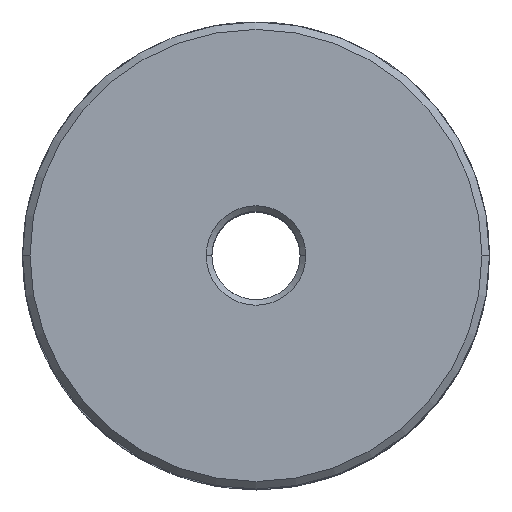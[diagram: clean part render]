
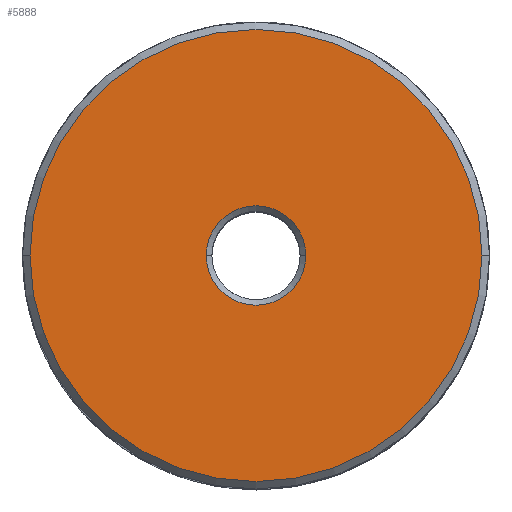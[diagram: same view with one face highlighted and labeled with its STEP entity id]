
A CAD part, top view. The second image highlights one B-rep face of the part: STEP entity #5888.
In plain terms, the highlighted planar face has unit normal (0, 0, 1).
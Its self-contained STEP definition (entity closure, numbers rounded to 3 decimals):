
#1599=CARTESIAN_POINT('',(-9.132,4.914,11.005));
#1600=DIRECTION('',(0.,0.,1.));
#1601=DIRECTION('',(-1.,0.,0.));
#1602=AXIS2_PLACEMENT_3D('',#1599,#1600,#1601);
#1621=CARTESIAN_POINT('',(-9.132,4.914,11.005));
#1622=DIRECTION('',(0.,0.,-1.));
#1623=DIRECTION('',(-1.,0.,0.));
#1624=AXIS2_PLACEMENT_3D('',#1621,#1622,#1623);
#1629=CARTESIAN_POINT('',(-9.132,4.914,11.005));
#1630=DIRECTION('',(0.,0.,-1.));
#1631=DIRECTION('',(1.,0.,0.));
#1632=AXIS2_PLACEMENT_3D('',#1629,#1630,#1631);
#1637=CARTESIAN_POINT('',(-9.132,4.914,11.005));
#1638=DIRECTION('',(0.,0.,1.));
#1639=DIRECTION('',(1.,0.,0.));
#1640=AXIS2_PLACEMENT_3D('',#1637,#1638,#1639);
#3023=CARTESIAN_POINT('',(6.235,4.914,11.005));
#3024=CARTESIAN_POINT('',(-24.499,4.914,11.005));
#3025=VERTEX_POINT('',#3023);
#3026=VERTEX_POINT('',#3024);
#3027=CARTESIAN_POINT('',(-12.513,4.914,11.005));
#3028=CARTESIAN_POINT('',(-5.751,4.914,11.005));
#3029=VERTEX_POINT('',#3027);
#3030=VERTEX_POINT('',#3028);
#5872=CARTESIAN_POINT('',(-9.132,4.914,11.005));
#5873=DIRECTION('',(0.,0.,1.));
#5874=DIRECTION('',(1.,0.,0.));
#5875=AXIS2_PLACEMENT_3D('',#5872,#5873,#5874);
#5876=PLANE('',#5875);
#5878=ORIENTED_EDGE('',*,*,#5877,.F.);
#5879=ORIENTED_EDGE('',*,*,#5862,.F.);
#5880=EDGE_LOOP('',(#5878,#5879));
#5881=FACE_OUTER_BOUND('',#5880,.F.);
#5883=ORIENTED_EDGE('',*,*,#5882,.F.);
#5885=ORIENTED_EDGE('',*,*,#5884,.F.);
#5886=EDGE_LOOP('',(#5883,#5885));
#5887=FACE_BOUND('',#5886,.F.);
#1603=CIRCLE('',#1602,15.367);
#1625=CIRCLE('',#1624,3.381);
#1633=CIRCLE('',#1632,3.381);
#1641=CIRCLE('',#1640,15.367);
#5862=EDGE_CURVE('',#3026,#3025,#1603,.T.);
#5877=EDGE_CURVE('',#3025,#3026,#1641,.T.);
#5882=EDGE_CURVE('',#3029,#3030,#1625,.T.);
#5884=EDGE_CURVE('',#3030,#3029,#1633,.T.);
#5888=ADVANCED_FACE('',(#5881,#5887),#5876,.T.);
